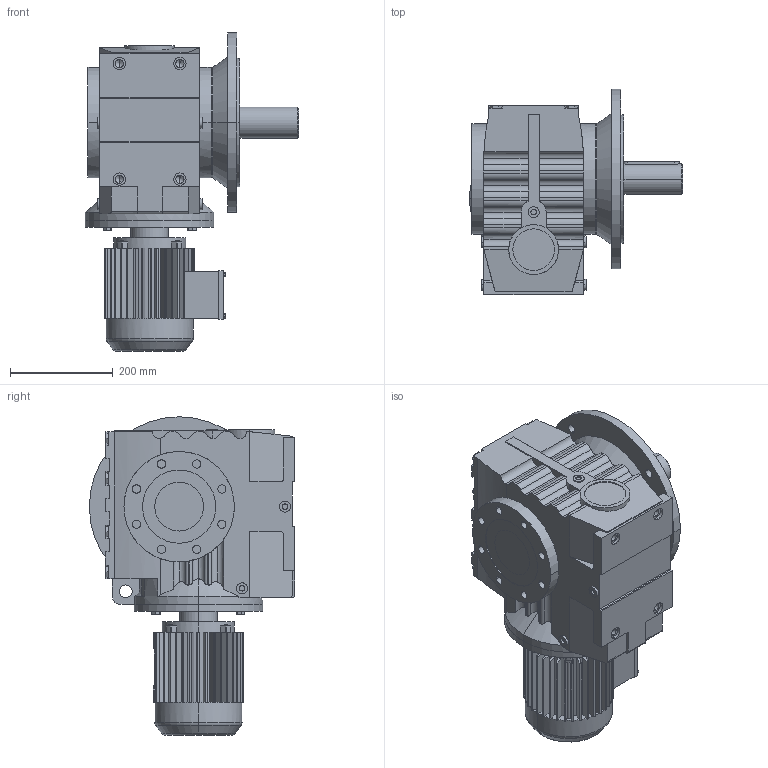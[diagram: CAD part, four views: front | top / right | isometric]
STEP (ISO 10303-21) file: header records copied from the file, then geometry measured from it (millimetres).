
FILE_DESCRIPTION(('Open CASCADE Model'),'2;1');
FILE_NAME('Open CASCADE Shape Model','2021-07-20T11:01:17',('Author'),( 'Open CASCADE'),'Open CASCADE STEP processor 6.3','Open CASCADE 6.3' ,'Unknown');
FILE_SCHEMA(('AUTOMOTIVE_DESIGN_CC2 { 1 2 10303 214 -1 1 5 4 }'));
Length unit declared in the file: millimetre
Products named in the file (5): 1_SF87-Y80M-A; SA47‵97_87.step; 萇儂_250_Y80M.step; す瑩妗陑粣S_87_SF.step; 楊擘S_87_350_SF.step
Assembly tree (4 placements, depth 2):
  1_SF87-Y80M-A
    SA47‵97_87.step
    萇儂_250_Y80M.step
    す瑩妗陑粣S_87_SF.step
    楊擘S_87_350_SF.step
Bounding box: 415 x 400 x 620 mm (x, y, z)
Volume: 31688810.4 mm3; surface area: 1451289.2 mm2
Topology: 4 solids, 4 shells, 859 faces, 2226 edges, 1439 vertices
Faces by surface type: plane 532, cylinder 298, cone 25, torus 4
Entity records: 63822 total; most frequent: CARTESIAN_POINT 22147, DIRECTION 7042, ORIENTED_EDGE 4432, PCURVE 4432, DEFINITIONAL_REPRESENTATION 4432, LINE 3532, VECTOR 3532, EDGE_CURVE 2216
